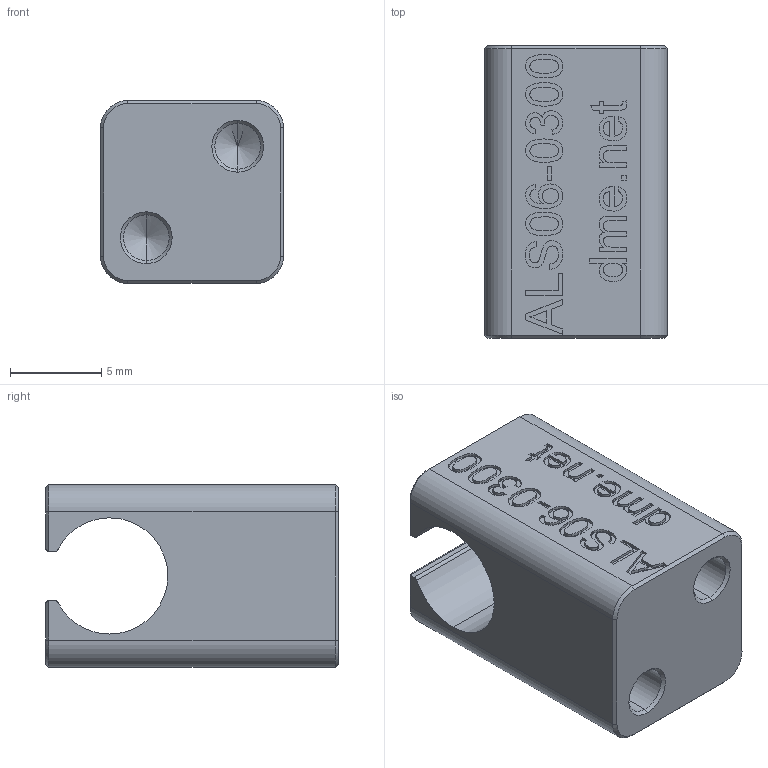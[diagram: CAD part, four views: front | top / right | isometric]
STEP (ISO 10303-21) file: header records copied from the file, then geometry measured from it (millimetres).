
FILE_DESCRIPTION (( 'STEP AP203' ), '1' );
FILE_NAME ('ALS06-0300.STEP', '2021-01-08T21:19:45', ( '' ), ( '' ), 'SwSTEP 2.0', 'SolidWorks 2020', '' );
FILE_SCHEMA (( 'CONFIG_CONTROL_DESIGN' ));
Length unit declared in the file: millimetre
Products named in the file (1): ALS06-0300
Bounding box: 10 x 16 x 10 mm (x, y, z)
Volume: 1181.8 mm3; surface area: 983.4 mm2
Topology: 1 solids, 1 shells, 279 faces, 729 edges, 476 vertices
Faces by surface type: bspline 130, plane 118, cone 16, cylinder 15
Entity records: 15638 total; most frequent: CARTESIAN_POINT 9625, ORIENTED_EDGE 1450, DIRECTION 785, EDGE_CURVE 725, VERTEX_POINT 476, LINE 417, VECTOR 417, EDGE_LOOP 307
